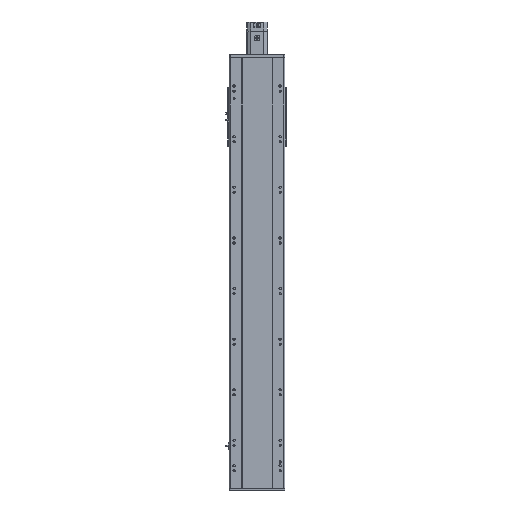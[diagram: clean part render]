
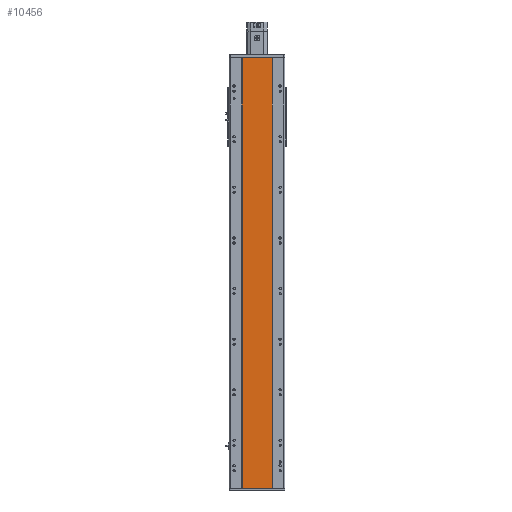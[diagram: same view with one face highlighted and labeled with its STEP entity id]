
A CAD part, front view. The second image highlights one B-rep face of the part: STEP entity #10456.
In plain terms, the highlighted planar face has unit normal (0, -1, 0).
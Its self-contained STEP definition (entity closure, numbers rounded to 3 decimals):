
#72 = VERTEX_POINT ( 'NONE', #9406 ) ;
#324 = VECTOR ( 'NONE', #35563, 1000. ) ;
#1213 = VECTOR ( 'NONE', #17889, 1000. ) ;
#1232 = DIRECTION ( 'NONE',  ( -1., 0., 0. ) ) ;
#1441 = CARTESIAN_POINT ( 'NONE',  ( -59., 1., 850.5 ) ) ;
#1671 = AXIS2_PLACEMENT_3D ( 'NONE', #25951, #19838, #1232 ) ;
#1723 = DIRECTION ( 'NONE',  ( 0., 0., -1. ) ) ;
#2199 = CARTESIAN_POINT ( 'NONE',  ( 59., 1., -850.5 ) ) ;
#3992 = EDGE_CURVE ( 'NONE', #31636, #30802, #15812, .T. ) ;
#6748 = LINE ( 'NONE', #39153, #38882 ) ;
#7121 = ORIENTED_EDGE ( 'NONE', *, *, #22201, .T. ) ;
#7786 = DIRECTION ( 'NONE',  ( 0., 0., -1. ) ) ;
#9406 = CARTESIAN_POINT ( 'NONE',  ( -59., 1., -850.5 ) ) ;
#9488 = EDGE_CURVE ( 'NONE', #31636, #72, #6748, .T. ) ;
#10456 = ADVANCED_FACE ( 'NONE', ( #16910 ), #13756, .F. ) ;
#13756 = PLANE ( 'NONE',  #1671 ) ;
#15812 = LINE ( 'NONE', #1441, #1213 ) ;
#16910 = FACE_OUTER_BOUND ( 'NONE', #30252, .T. ) ;
#17539 = ORIENTED_EDGE ( 'NONE', *, *, #3992, .F. ) ;
#17684 = CARTESIAN_POINT ( 'NONE',  ( -59., 1., 850.5 ) ) ;
#17889 = DIRECTION ( 'NONE',  ( 1., 0., 0. ) ) ;
#18650 = EDGE_CURVE ( 'NONE', #30802, #26268, #31779, .T. ) ;
#19838 = DIRECTION ( 'NONE',  ( 0., 1., 0. ) ) ;
#22201 = EDGE_CURVE ( 'NONE', #72, #26268, #26549, .T. ) ;
#24341 = CARTESIAN_POINT ( 'NONE',  ( 59., 1., 850.5 ) ) ;
#25951 = CARTESIAN_POINT ( 'NONE',  ( -59., 1., 850.5 ) ) ;
#26268 = VERTEX_POINT ( 'NONE', #2199 ) ;
#26526 = CARTESIAN_POINT ( 'NONE',  ( 59., 1., 850.5 ) ) ;
#26549 = LINE ( 'NONE', #29709, #324 ) ;
#26698 = ORIENTED_EDGE ( 'NONE', *, *, #9488, .T. ) ;
#29709 = CARTESIAN_POINT ( 'NONE',  ( -59., 1., -850.5 ) ) ;
#30252 = EDGE_LOOP ( 'NONE', ( #7121, #31762, #17539, #26698 ) ) ;
#30802 = VERTEX_POINT ( 'NONE', #24341 ) ;
#31636 = VERTEX_POINT ( 'NONE', #17684 ) ;
#31762 = ORIENTED_EDGE ( 'NONE', *, *, #18650, .F. ) ;
#31779 = LINE ( 'NONE', #26526, #39118 ) ;
#35563 = DIRECTION ( 'NONE',  ( 1., 0., 0. ) ) ;
#38882 = VECTOR ( 'NONE', #1723, 1000. ) ;
#39118 = VECTOR ( 'NONE', #7786, 1000. ) ;
#39153 = CARTESIAN_POINT ( 'NONE',  ( -59., 1., 850.5 ) ) ;
